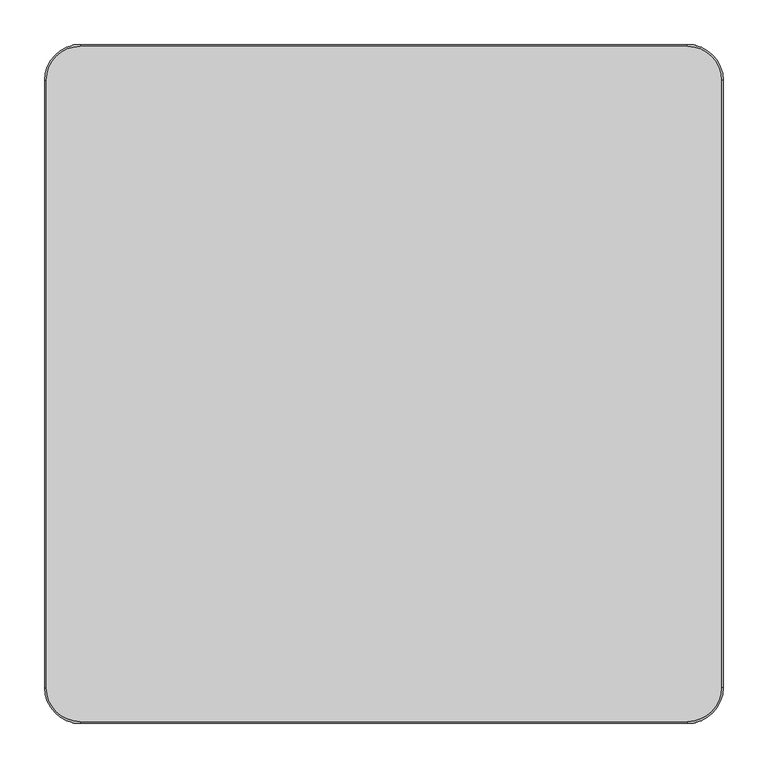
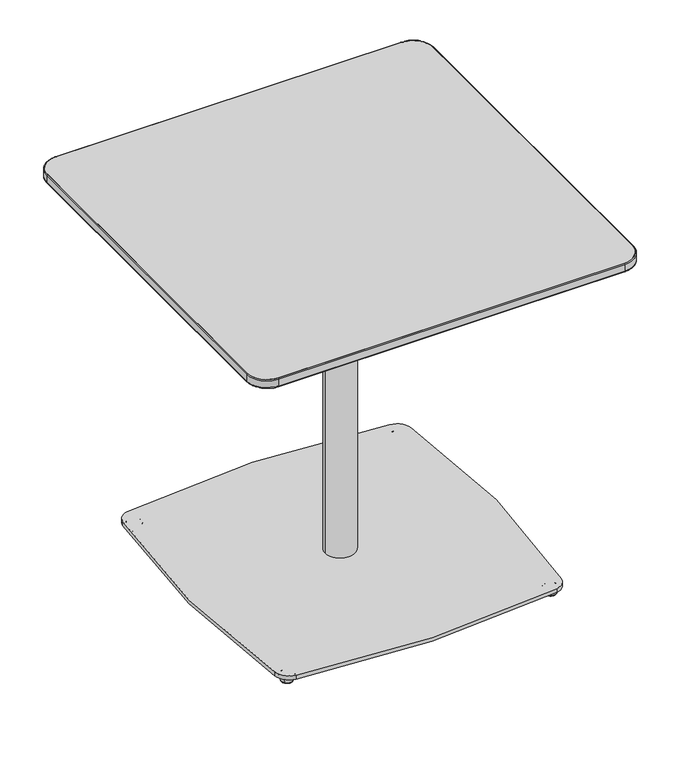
"""IFC4 building model written with IfcOpenShell, lengths in millimetres: furniture geometry, Coalesse_AM_Table_Conference_Montara650_WorkHeight_Square : 30D x 30W."""

from ifc_helpers import new_model, si_unit, point, frame, frame_2d, origin, place, context, project, spatial, polyline, circle_curve, ellipse_curve, trimmed, segment, composite_curve, outline, extrude, source, transform, mapped, element, save
from ifc_brep_helpers import plane_surface, cylinder_surface, revolved_surface, spline_surface, advanced_brep


def furniture_c2a7fe05(model_context):
    return source(origin(), model_context, "Body", "SolidModel", [
        advanced_brep(
        [(252.2843813, 244.9990703, 0.0), (266.9696661, 259.6843552, 0.0), (259.6270237, 252.3417127, 0.0), (251.7378791, 244.4525682, 0.5718943), (267.5161683, 260.2308573, 0.5718943), (249.43878, 242.1534691, 11.2068005), (269.8152674, 262.5299564, 11.2068005), (249.8538008, 242.5684899, 11.9999882), (269.4002466, 262.1149356, 11.9999882), (259.6270237, 252.3417127, 11.9999882)],
        [
            (0, 1, circle_curve(frame((259.6270237, 252.3417127, 0.0), z_axis=(0.0, 0.0, -1.0), x_axis=(0.7071067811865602, 0.7071067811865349, 0.0)), 10.3840645)),
            (1, 2),
            (2, 0),
            (1, 0, circle_curve(frame((259.6270237, 252.3417127, 0.0), z_axis=(0.0, 0.0, -1.0), x_axis=(0.7071067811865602, 0.7071067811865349, 0.0)), 10.3840645)),
            (3, 4, circle_curve(frame((259.6270237, 252.3417127, 0.5718943), z_axis=(0.0, 0.0, -1.0), x_axis=(0.7071067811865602, 0.7071067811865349, 0.0)), 11.1569353)),
            (4, 1, circle_curve(frame((266.9696661, 259.6843552, 0.8081846), z_axis=(-0.7071067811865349, 0.7071067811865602, 0.0), x_axis=(0.7071067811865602, 0.7071067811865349, 0.0)), 0.8081846)),
            (0, 3, circle_curve(frame((252.2843813, 244.9990703, 0.8081846), z_axis=(-0.7071067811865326, 0.7071067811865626, 0.0), x_axis=(-0.7071067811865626, -0.7071067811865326, 0.0)), 0.8081846)),
            (4, 3, circle_curve(frame((259.6270237, 252.3417127, 0.5718943), z_axis=(0.0, 0.0, -1.0), x_axis=(0.7071067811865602, 0.7071067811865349, 0.0)), 11.1569353)),
            (5, 6, circle_curve(frame((259.6270237, 252.3417127, 11.2068005), z_axis=(0.0, 0.0, -1.0), x_axis=(0.7071067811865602, 0.7071067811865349, 0.0)), 14.4083524)),
            (6, 4),
            (3, 5),
            (6, 5, circle_curve(frame((259.6270237, 252.3417127, 11.2068005), z_axis=(0.0, 0.0, -1.0), x_axis=(0.7071067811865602, 0.7071067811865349, 0.0)), 14.4083524)),
            (7, 8, circle_curve(frame((259.6270237, 252.3417127, 11.9999882), z_axis=(0.0, 0.0, -1.0), x_axis=(0.7071067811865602, 0.7071067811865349, 0.0)), 13.8214243)),
            (8, 6, circle_curve(frame((269.4002466, 262.1149356, 11.3862424), z_axis=(-0.7071067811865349, 0.7071067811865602, 0.0), x_axis=(0.7071067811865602, 0.7071067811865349, 0.0)), 0.6137458)),
            (5, 7, circle_curve(frame((249.8538008, 242.5684899, 11.3862424), z_axis=(-0.7071067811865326, 0.7071067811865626, 0.0), x_axis=(-0.7071067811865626, -0.7071067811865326, 0.0)), 0.6137458)),
            (8, 7, circle_curve(frame((259.6270237, 252.3417127, 11.9999882), z_axis=(0.0, 0.0, -1.0), x_axis=(0.7071067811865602, 0.7071067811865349, 0.0)), 13.8214243)),
            (9, 8),
            (7, 9),
        ],
        [
            plane_surface(frame((259.6270237, 252.3417127, 0.0), z_axis=(0.0, 0.0, -1.0000000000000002), x_axis=(0.7071067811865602, 0.7071067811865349, 0.0))),
            revolved_surface(trimmed(ellipse_curve(frame((266.9696661, 259.6843552, 0.8081846), z_axis=(0.7071067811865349, -0.7071067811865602, 0.0), x_axis=(0.7071067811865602, 0.7071067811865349, 0.0)), 0.8081846, 0.8081846), [point((266.9696661, 259.6843552, 0.0))], [point((267.5161683, 260.2308573, 0.5718943))], True, "CARTESIAN"), (259.6270237, 252.3417127, 12.2086845), (0.0, 0.0, 1.0)),
            revolved_surface(polyline([(267.5161683, 260.2308573, 0.5718943), (269.8152674, 262.5299564, 11.2068005)]), (259.6270237, 252.3417127, 12.2086845), (0.0, 0.0, 1.0)),
            revolved_surface(trimmed(ellipse_curve(frame((269.4002466, 262.1149356, 11.3862424), z_axis=(0.7071067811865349, -0.7071067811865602, 0.0), x_axis=(0.7071067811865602, 0.7071067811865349, 0.0)), 0.6137458, 0.6137458), [point((269.8152674, 262.5299564, 11.2068005))], [point((269.4002466, 262.1149356, 11.9999882))], True, "CARTESIAN"), (259.6270237, 252.3417127, 12.2086845), (0.0, 0.0, 1.0)),
            plane_surface(frame((259.6270237, 252.3417127, 11.9999882), z_axis=(0.0, 0.0, 1.0000000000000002), x_axis=(0.7071067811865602, 0.7071067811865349, 0.0))),
        ],
        [
            (0, [[1, 2, 3]]),
            (0, [[4, -3, -2]]),
            (1, [[5, 6, -1, 7]]),
            (1, [[8, -7, -4, -6]]),
            (2, [[9, 10, -5, 11]]),
            (2, [[12, -11, -8, -10]]),
            (3, [[13, 14, -9, 15]]),
            (3, [[16, -15, -12, -14]]),
            (4, [[17, -13, 18]]),
            (4, [[-18, -16, -17]]),
        ],
    ),
        advanced_brep(
        [(259.6270237, -268.2167127, 0.0), (266.9696661, -275.5593552, 0.0), (252.2843813, -260.8740703, 0.0), (267.5161683, -276.1058573, 0.5718943), (251.7378791, -260.3275682, 0.5718943), (269.8152674, -278.4049564, 11.2068005), (249.43878, -258.0284691, 11.2068005), (269.4002466, -277.9899356, 11.9999882), (249.8538008, -258.4434899, 11.9999882), (259.6270237, -268.2167127, 11.9999882)],
        [
            (0, 1),
            (1, 2, circle_curve(frame((259.6270237, -268.2167127, 0.0), z_axis=(0.0, 0.0, -1.0), x_axis=(0.7071067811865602, -0.7071067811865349, 0.0)), 10.3840645)),
            (2, 0),
            (2, 1, circle_curve(frame((259.6270237, -268.2167127, 0.0), z_axis=(0.0, 0.0, -1.0), x_axis=(0.7071067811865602, -0.7071067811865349, 0.0)), 10.3840645)),
            (1, 3, circle_curve(frame((266.9696661, -275.5593552, 0.8081846), z_axis=(-0.7071067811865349, -0.7071067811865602, 0.0), x_axis=(0.7071067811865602, -0.7071067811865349, 0.0)), 0.8081846)),
            (3, 4, circle_curve(frame((259.6270237, -268.2167127, 0.5718943), z_axis=(0.0, 0.0, -1.0), x_axis=(0.7071067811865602, -0.7071067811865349, 0.0)), 11.1569353)),
            (4, 2, circle_curve(frame((252.2843813, -260.8740703, 0.8081846), z_axis=(-0.7071067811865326, -0.7071067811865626, 0.0), x_axis=(-0.7071067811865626, 0.7071067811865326, 0.0)), 0.8081846)),
            (4, 3, circle_curve(frame((259.6270237, -268.2167127, 0.5718943), z_axis=(0.0, 0.0, -1.0), x_axis=(0.7071067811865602, -0.7071067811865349, 0.0)), 11.1569353)),
            (3, 5),
            (5, 6, circle_curve(frame((259.6270237, -268.2167127, 11.2068005), z_axis=(0.0, 0.0, -1.0), x_axis=(0.7071067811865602, -0.7071067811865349, 0.0)), 14.4083524)),
            (6, 4),
            (6, 5, circle_curve(frame((259.6270237, -268.2167127, 11.2068005), z_axis=(0.0, 0.0, -1.0), x_axis=(0.7071067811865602, -0.7071067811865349, 0.0)), 14.4083524)),
            (5, 7, circle_curve(frame((269.4002466, -277.9899356, 11.3862424), z_axis=(-0.7071067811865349, -0.7071067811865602, 0.0), x_axis=(0.7071067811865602, -0.7071067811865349, 0.0)), 0.6137458)),
            (7, 8, circle_curve(frame((259.6270237, -268.2167127, 11.9999882), z_axis=(0.0, 0.0, -1.0), x_axis=(0.7071067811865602, -0.7071067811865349, 0.0)), 13.8214243)),
            (8, 6, circle_curve(frame((249.8538008, -258.4434899, 11.3862424), z_axis=(-0.7071067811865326, -0.7071067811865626, 0.0), x_axis=(-0.7071067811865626, 0.7071067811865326, 0.0)), 0.6137458)),
            (8, 7, circle_curve(frame((259.6270237, -268.2167127, 11.9999882), z_axis=(0.0, 0.0, -1.0), x_axis=(0.7071067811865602, -0.7071067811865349, 0.0)), 13.8214243)),
            (7, 9),
            (9, 8),
        ],
        [
            plane_surface(frame((259.6270237, -268.2167127, 0.0), z_axis=(0.0, 0.0, -1.0000000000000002), x_axis=(0.7071067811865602, -0.7071067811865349, 0.0))),
            revolved_surface(trimmed(ellipse_curve(frame((266.9696661, -275.5593552, 0.8081846), z_axis=(0.7071067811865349, 0.7071067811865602, 0.0), x_axis=(0.7071067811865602, -0.7071067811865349, 0.0)), 0.8081846, 0.8081846), [point((267.5161683, -276.1058573, 0.5718943))], [point((266.9696661, -275.5593552, 0.0))], True, "CARTESIAN"), (259.6270237, -268.2167127, 12.2086845), (0.0, 0.0, -1.0)),
            revolved_surface(polyline([(269.8152674, -278.4049564, 11.2068005), (267.5161683, -276.1058573, 0.5718943)]), (259.6270237, -268.2167127, 12.2086845), (0.0, 0.0, -1.0)),
            revolved_surface(trimmed(ellipse_curve(frame((269.4002466, -277.9899356, 11.3862424), z_axis=(0.7071067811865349, 0.7071067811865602, 0.0), x_axis=(0.7071067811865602, -0.7071067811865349, 0.0)), 0.6137458, 0.6137458), [point((269.4002466, -277.9899356, 11.9999882))], [point((269.8152674, -278.4049564, 11.2068005))], True, "CARTESIAN"), (259.6270237, -268.2167127, 12.2086845), (0.0, 0.0, -1.0)),
            plane_surface(frame((259.6270237, -268.2167127, 11.9999882), z_axis=(0.0, 0.0, 1.0000000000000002), x_axis=(0.7071067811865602, -0.7071067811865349, 0.0))),
        ],
        [
            (0, [[1, 2, 3]]),
            (0, [[-3, 4, -1]]),
            (1, [[-2, 5, 6, 7]]),
            (1, [[-4, -7, 8, -5]]),
            (2, [[-6, 9, 10, 11]]),
            (2, [[-8, -11, 12, -9]]),
            (3, [[-10, 13, 14, 15]]),
            (3, [[-12, -15, 16, -13]]),
            (4, [[-14, 17, 18]]),
            (4, [[-16, -18, -17]]),
        ],
    ),
        extrude(outline(composite_curve([segment(trimmed(circle_curve(frame_2d((252.4620101, 244.7741595)), 31.75), [point((257.2212429, 276.1654354))], [point((283.8374336, 249.6368029))], False, "CARTESIAN"), True, "CONTINUOUS"), segment(trimmed(circle_curve(frame_2d((-1338.8141764, -1.8458925)), 1642.0236885), [point((283.8374336, 249.6368029))], [point((281.5966066, -267.3843791))], False, "CARTESIAN"), True, "CONTINUOUS"), segment(trimmed(circle_curve(frame_2d((256.5309305, -263.2768394)), 25.4), [point((281.5966066, -267.3843791))], [point((260.3854879, -288.3826631))], False, "CARTESIAN"), True, "CONTINUOUS"), segment(trimmed(circle_curve(frame_2d((1.8210899, 1395.720493)), 1703.8365498), [point((260.3854879, -288.3826631))], [point((-253.486505, -288.8794656))], False, "CARTESIAN"), True, "CONTINUOUS"), segment(trimmed(circle_curve(frame_2d((-248.7289969, -257.4879282)), 31.75), [point((-253.486505, -288.8794656))], [point((-280.1193859, -262.2530073))], False, "CARTESIAN"), True, "CONTINUOUS"), segment(trimmed(circle_curve(frame_2d((1447.4963883, 5.89e-05)), 1747.4074894), [point((-280.1193859, -262.2530073))], [point((-281.3896101, 253.7442979))], False, "CARTESIAN"), True, "CONTINUOUS"), segment(trimmed(circle_curve(frame_2d((-256.2588351, 250.0559175)), 25.4), [point((-281.3896101, 253.7442979))], [point((-260.1643924, 275.1538581))], False, "CARTESIAN"), True, "CONTINUOUS"), segment(trimmed(circle_curve(frame_2d((1.8210899, -1408.420493)), 1703.8365498), [point((-260.1643924, 275.1538581))], [point((257.2212429, 276.1654354))], False, "CARTESIAN"), True, "CONTINUOUS")], self_intersect=False)), frame((0.0, 0.0, 11.9999882), z_axis=(0.0, 0.0, 1.0), x_axis=(1.0, 0.0, 0.0)), (0.0, 0.0, 1.0), 8.0000083),
        advanced_brep(
        [(-259.6270237, 252.3417127, 0.0), (-266.9696661, 259.6843552, 0.0), (-252.2843813, 244.9990703, 0.0), (-267.5161683, 260.2308573, 0.5718943), (-251.7378791, 244.4525682, 0.5718943), (-269.8152674, 262.5299564, 11.2068005), (-249.43878, 242.1534691, 11.2068005), (-269.4002466, 262.1149356, 11.9999882), (-249.8538008, 242.5684899, 11.9999882), (-259.6270237, 252.3417127, 11.9999882)],
        [
            (0, 1),
            (1, 2, circle_curve(frame((-259.6270237, 252.3417127, 0.0), z_axis=(0.0, 0.0, -1.0), x_axis=(-0.7071067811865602, 0.7071067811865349, 0.0)), 10.3840645)),
            (2, 0),
            (2, 1, circle_curve(frame((-259.6270237, 252.3417127, 0.0), z_axis=(0.0, 0.0, -1.0), x_axis=(-0.7071067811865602, 0.7071067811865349, 0.0)), 10.3840645)),
            (1, 3, circle_curve(frame((-266.9696661, 259.6843552, 0.8081846), z_axis=(0.7071067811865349, 0.7071067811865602, 0.0), x_axis=(-0.7071067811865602, 0.7071067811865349, 0.0)), 0.8081846)),
            (3, 4, circle_curve(frame((-259.6270237, 252.3417127, 0.5718943), z_axis=(0.0, 0.0, -1.0), x_axis=(-0.7071067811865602, 0.7071067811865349, 0.0)), 11.1569353)),
            (4, 2, circle_curve(frame((-252.2843813, 244.9990703, 0.8081846), z_axis=(0.7071067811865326, 0.7071067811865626, 0.0), x_axis=(0.7071067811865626, -0.7071067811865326, 0.0)), 0.8081846)),
            (4, 3, circle_curve(frame((-259.6270237, 252.3417127, 0.5718943), z_axis=(0.0, 0.0, -1.0), x_axis=(-0.7071067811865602, 0.7071067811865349, 0.0)), 11.1569353)),
            (3, 5),
            (5, 6, circle_curve(frame((-259.6270237, 252.3417127, 11.2068005), z_axis=(0.0, 0.0, -1.0), x_axis=(-0.7071067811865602, 0.7071067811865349, 0.0)), 14.4083524)),
            (6, 4),
            (6, 5, circle_curve(frame((-259.6270237, 252.3417127, 11.2068005), z_axis=(0.0, 0.0, -1.0), x_axis=(-0.7071067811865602, 0.7071067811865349, 0.0)), 14.4083524)),
            (5, 7, circle_curve(frame((-269.4002466, 262.1149356, 11.3862424), z_axis=(0.7071067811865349, 0.7071067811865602, 0.0), x_axis=(-0.7071067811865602, 0.7071067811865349, 0.0)), 0.6137458)),
            (7, 8, circle_curve(frame((-259.6270237, 252.3417127, 11.9999882), z_axis=(0.0, 0.0, -1.0), x_axis=(-0.7071067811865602, 0.7071067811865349, 0.0)), 13.8214243)),
            (8, 6, circle_curve(frame((-249.8538008, 242.5684899, 11.3862424), z_axis=(0.7071067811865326, 0.7071067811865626, 0.0), x_axis=(0.7071067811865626, -0.7071067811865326, 0.0)), 0.6137458)),
            (8, 7, circle_curve(frame((-259.6270237, 252.3417127, 11.9999882), z_axis=(0.0, 0.0, -1.0), x_axis=(-0.7071067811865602, 0.7071067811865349, 0.0)), 13.8214243)),
            (7, 9),
            (9, 8),
        ],
        [
            plane_surface(frame((-259.6270237, 252.3417127, 0.0), z_axis=(0.0, 0.0, -1.0000000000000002), x_axis=(-0.7071067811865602, 0.7071067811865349, 0.0))),
            revolved_surface(trimmed(ellipse_curve(frame((-266.9696661, 259.6843552, 0.8081846), z_axis=(-0.7071067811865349, -0.7071067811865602, 0.0), x_axis=(-0.7071067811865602, 0.7071067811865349, 0.0)), 0.8081846, 0.8081846), [point((-267.5161683, 260.2308573, 0.5718943))], [point((-266.9696661, 259.6843552, 0.0))], True, "CARTESIAN"), (-259.6270237, 252.3417127, 12.2086845), (0.0, 0.0, -1.0)),
            revolved_surface(polyline([(-269.8152674, 262.5299564, 11.2068005), (-267.5161683, 260.2308573, 0.5718943)]), (-259.6270237, 252.3417127, 12.2086845), (0.0, 0.0, -1.0)),
            revolved_surface(trimmed(ellipse_curve(frame((-269.4002466, 262.1149356, 11.3862424), z_axis=(-0.7071067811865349, -0.7071067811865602, 0.0), x_axis=(-0.7071067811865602, 0.7071067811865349, 0.0)), 0.6137458, 0.6137458), [point((-269.4002466, 262.1149356, 11.9999882))], [point((-269.8152674, 262.5299564, 11.2068005))], True, "CARTESIAN"), (-259.6270237, 252.3417127, 12.2086845), (0.0, 0.0, -1.0)),
            plane_surface(frame((-259.6270237, 252.3417127, 11.9999882), z_axis=(0.0, 0.0, 1.0000000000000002), x_axis=(-0.7071067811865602, 0.7071067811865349, 0.0))),
        ],
        [
            (0, [[1, 2, 3]]),
            (0, [[-3, 4, -1]]),
            (1, [[-2, 5, 6, 7]]),
            (1, [[-4, -7, 8, -5]]),
            (2, [[-6, 9, 10, 11]]),
            (2, [[-8, -11, 12, -9]]),
            (3, [[-10, 13, 14, 15]]),
            (3, [[-12, -15, 16, -13]]),
            (4, [[-14, 17, 18]]),
            (4, [[-16, -18, -17]]),
        ],
    ),
        advanced_brep(
        [(-252.2843813, -260.8740703, 0.0), (-266.9696661, -275.5593552, 0.0), (-259.6270237, -268.2167127, 0.0), (-251.7378791, -260.3275682, 0.5718943), (-267.5161683, -276.1058573, 0.5718943), (-249.43878, -258.0284691, 11.2068005), (-269.8152674, -278.4049564, 11.2068005), (-249.8538008, -258.4434899, 11.9999882), (-269.4002466, -277.9899356, 11.9999882), (-259.6270237, -268.2167127, 11.9999882)],
        [
            (0, 1, circle_curve(frame((-259.6270237, -268.2167127, 0.0), z_axis=(0.0, 0.0, -1.0), x_axis=(-0.7071067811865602, -0.7071067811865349, 0.0)), 10.3840645)),
            (1, 2),
            (2, 0),
            (1, 0, circle_curve(frame((-259.6270237, -268.2167127, 0.0), z_axis=(0.0, 0.0, -1.0), x_axis=(-0.7071067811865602, -0.7071067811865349, 0.0)), 10.3840645)),
            (3, 4, circle_curve(frame((-259.6270237, -268.2167127, 0.5718943), z_axis=(0.0, 0.0, -1.0), x_axis=(-0.7071067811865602, -0.7071067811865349, 0.0)), 11.1569353)),
            (4, 1, circle_curve(frame((-266.9696661, -275.5593552, 0.8081846), z_axis=(0.7071067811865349, -0.7071067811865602, 0.0), x_axis=(-0.7071067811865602, -0.7071067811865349, 0.0)), 0.8081846)),
            (0, 3, circle_curve(frame((-252.2843813, -260.8740703, 0.8081846), z_axis=(0.7071067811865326, -0.7071067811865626, 0.0), x_axis=(0.7071067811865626, 0.7071067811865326, 0.0)), 0.8081846)),
            (4, 3, circle_curve(frame((-259.6270237, -268.2167127, 0.5718943), z_axis=(0.0, 0.0, -1.0), x_axis=(-0.7071067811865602, -0.7071067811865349, 0.0)), 11.1569353)),
            (5, 6, circle_curve(frame((-259.6270237, -268.2167127, 11.2068005), z_axis=(0.0, 0.0, -1.0), x_axis=(-0.7071067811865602, -0.7071067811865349, 0.0)), 14.4083524)),
            (6, 4),
            (3, 5),
            (6, 5, circle_curve(frame((-259.6270237, -268.2167127, 11.2068005), z_axis=(0.0, 0.0, -1.0), x_axis=(-0.7071067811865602, -0.7071067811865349, 0.0)), 14.4083524)),
            (7, 8, circle_curve(frame((-259.6270237, -268.2167127, 11.9999882), z_axis=(0.0, 0.0, -1.0), x_axis=(-0.7071067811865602, -0.7071067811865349, 0.0)), 13.8214243)),
            (8, 6, circle_curve(frame((-269.4002466, -277.9899356, 11.3862424), z_axis=(0.7071067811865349, -0.7071067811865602, 0.0), x_axis=(-0.7071067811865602, -0.7071067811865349, 0.0)), 0.6137458)),
            (5, 7, circle_curve(frame((-249.8538008, -258.4434899, 11.3862424), z_axis=(0.7071067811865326, -0.7071067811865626, 0.0), x_axis=(0.7071067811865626, 0.7071067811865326, 0.0)), 0.6137458)),
            (8, 7, circle_curve(frame((-259.6270237, -268.2167127, 11.9999882), z_axis=(0.0, 0.0, -1.0), x_axis=(-0.7071067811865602, -0.7071067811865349, 0.0)), 13.8214243)),
            (9, 8),
            (7, 9),
        ],
        [
            plane_surface(frame((-259.6270237, -268.2167127, 0.0), z_axis=(0.0, 0.0, -1.0000000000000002), x_axis=(-0.7071067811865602, -0.7071067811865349, 0.0))),
            revolved_surface(trimmed(ellipse_curve(frame((-266.9696661, -275.5593552, 0.8081846), z_axis=(-0.7071067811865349, 0.7071067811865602, 0.0), x_axis=(-0.7071067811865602, -0.7071067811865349, 0.0)), 0.8081846, 0.8081846), [point((-266.9696661, -275.5593552, 0.0))], [point((-267.5161683, -276.1058573, 0.5718943))], True, "CARTESIAN"), (-259.6270237, -268.2167127, 12.2086845), (0.0, 0.0, 1.0)),
            revolved_surface(polyline([(-267.5161683, -276.1058573, 0.5718943), (-269.8152674, -278.4049564, 11.2068005)]), (-259.6270237, -268.2167127, 12.2086845), (0.0, 0.0, 1.0)),
            revolved_surface(trimmed(ellipse_curve(frame((-269.4002466, -277.9899356, 11.3862424), z_axis=(-0.7071067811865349, 0.7071067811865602, 0.0), x_axis=(-0.7071067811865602, -0.7071067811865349, 0.0)), 0.6137458, 0.6137458), [point((-269.8152674, -278.4049564, 11.2068005))], [point((-269.4002466, -277.9899356, 11.9999882))], True, "CARTESIAN"), (-259.6270237, -268.2167127, 12.2086845), (0.0, 0.0, 1.0)),
            plane_surface(frame((-259.6270237, -268.2167127, 11.9999882), z_axis=(0.0, 0.0, 1.0000000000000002), x_axis=(-0.7071067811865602, -0.7071067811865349, 0.0))),
        ],
        [
            (0, [[1, 2, 3]]),
            (0, [[4, -3, -2]]),
            (1, [[5, 6, -1, 7]]),
            (1, [[8, -7, -4, -6]]),
            (2, [[9, 10, -5, 11]]),
            (2, [[12, -11, -8, -10]]),
            (3, [[13, 14, -9, 15]]),
            (3, [[16, -15, -12, -14]]),
            (4, [[17, -13, 18]]),
            (4, [[-18, -16, -17]]),
        ],
    ),
        advanced_brep(
        [(-259.4526224, 252.1653521, 0.0), (-266.7952648, 259.5079945, 0.0), (-252.1099799, 244.8227097, 0.0), (-267.3417669, 260.0544967, 0.5718943), (-251.5634778, 244.2762075, 0.5718943), (-269.640866, 262.3535958, 11.2068005), (-249.2643787, 241.9771084, 11.2068005), (-269.2258452, 261.938575, 11.9999882), (-249.6793995, 242.3921292, 11.9999882), (-259.4526224, 252.1653521, 11.9999882)],
        [
            (0, 1),
            (1, 2, circle_curve(frame((-259.4526224, 252.1653521, 0.0), z_axis=(0.0, 0.0, -1.0), x_axis=(-0.7071067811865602, 0.7071067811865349, 0.0)), 10.3840645)),
            (2, 0),
            (2, 1, circle_curve(frame((-259.4526224, 252.1653521, 0.0), z_axis=(0.0, 0.0, -1.0), x_axis=(-0.7071067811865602, 0.7071067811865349, 0.0)), 10.3840645)),
            (1, 3, circle_curve(frame((-266.7952648, 259.5079945, 0.8081846), z_axis=(0.7071067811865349, 0.7071067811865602, 0.0), x_axis=(-0.7071067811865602, 0.7071067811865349, 0.0)), 0.8081846)),
            (3, 4, circle_curve(frame((-259.4526224, 252.1653521, 0.5718943), z_axis=(0.0, 0.0, -1.0), x_axis=(-0.7071067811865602, 0.7071067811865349, 0.0)), 11.1569353)),
            (4, 2, circle_curve(frame((-252.1099799, 244.8227097, 0.8081846), z_axis=(0.7071067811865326, 0.7071067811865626, 0.0), x_axis=(0.7071067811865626, -0.7071067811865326, 0.0)), 0.8081846)),
            (4, 3, circle_curve(frame((-259.4526224, 252.1653521, 0.5718943), z_axis=(0.0, 0.0, -1.0), x_axis=(-0.7071067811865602, 0.7071067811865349, 0.0)), 11.1569353)),
            (3, 5),
            (5, 6, circle_curve(frame((-259.4526224, 252.1653521, 11.2068005), z_axis=(0.0, 0.0, -1.0), x_axis=(-0.7071067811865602, 0.7071067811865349, 0.0)), 14.4083524)),
            (6, 4),
            (6, 5, circle_curve(frame((-259.4526224, 252.1653521, 11.2068005), z_axis=(0.0, 0.0, -1.0), x_axis=(-0.7071067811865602, 0.7071067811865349, 0.0)), 14.4083524)),
            (5, 7, circle_curve(frame((-269.2258452, 261.938575, 11.3862424), z_axis=(0.7071067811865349, 0.7071067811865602, 0.0), x_axis=(-0.7071067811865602, 0.7071067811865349, 0.0)), 0.6137458)),
            (7, 8, circle_curve(frame((-259.4526224, 252.1653521, 11.9999882), z_axis=(0.0, 0.0, -1.0), x_axis=(-0.7071067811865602, 0.7071067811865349, 0.0)), 13.8214243)),
            (8, 6, circle_curve(frame((-249.6793995, 242.3921292, 11.3862424), z_axis=(0.7071067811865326, 0.7071067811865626, 0.0), x_axis=(0.7071067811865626, -0.7071067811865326, 0.0)), 0.6137458)),
            (8, 7, circle_curve(frame((-259.4526224, 252.1653521, 11.9999882), z_axis=(0.0, 0.0, -1.0), x_axis=(-0.7071067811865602, 0.7071067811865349, 0.0)), 13.8214243)),
            (7, 9),
            (9, 8),
        ],
        [
            plane_surface(frame((-259.4526224, 252.1653521, 0.0), z_axis=(0.0, 0.0, -1.0000000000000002), x_axis=(-0.7071067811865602, 0.7071067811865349, 0.0))),
            revolved_surface(trimmed(ellipse_curve(frame((-266.7952648, 259.5079945, 0.8081846), z_axis=(-0.7071067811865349, -0.7071067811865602, 0.0), x_axis=(-0.7071067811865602, 0.7071067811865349, 0.0)), 0.8081846, 0.8081846), [point((-267.3417669, 260.0544967, 0.5718943))], [point((-266.7952648, 259.5079945, 0.0))], True, "CARTESIAN"), (-259.4526224, 252.1653521, 12.2086845), (0.0, 0.0, -1.0)),
            revolved_surface(polyline([(-269.640866, 262.3535958, 11.2068005), (-267.3417669, 260.0544967, 0.5718943)]), (-259.4526224, 252.1653521, 12.2086845), (0.0, 0.0, -1.0)),
            revolved_surface(trimmed(ellipse_curve(frame((-269.2258452, 261.938575, 11.3862424), z_axis=(-0.7071067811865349, -0.7071067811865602, 0.0), x_axis=(-0.7071067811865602, 0.7071067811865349, 0.0)), 0.6137458, 0.6137458), [point((-269.2258452, 261.938575, 11.9999882))], [point((-269.640866, 262.3535958, 11.2068005))], True, "CARTESIAN"), (-259.4526224, 252.1653521, 12.2086845), (0.0, 0.0, -1.0)),
            plane_surface(frame((-259.4526224, 252.1653521, 11.9999882), z_axis=(0.0, 0.0, 1.0000000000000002), x_axis=(-0.7071067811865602, 0.7071067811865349, 0.0))),
        ],
        [
            (0, [[1, 2, 3]]),
            (0, [[-3, 4, -1]]),
            (1, [[-2, 5, 6, 7]]),
            (1, [[-4, -7, 8, -5]]),
            (2, [[-6, 9, 10, 11]]),
            (2, [[-8, -11, 12, -9]]),
            (3, [[-10, 13, 14, 15]]),
            (3, [[-12, -15, 16, -13]]),
            (4, [[-14, 17, 18]]),
            (4, [[-16, -18, -17]]),
        ],
    ),
        advanced_brep(
        [(316.0626362, 316.0635082, 693.930027), (316.0626362, -316.0635082, 693.930027), (-316.0626362, -316.0635082, 693.930027), (-316.0626362, 316.0635082, 693.930027), (340.788625, 378.968, 706.195891), (-340.788625, 378.968, 706.195891), (-378.888625, 340.868, 706.195891), (-378.888625, -340.868, 706.195891), (-340.788625, -378.968, 706.195891), (340.788625, -378.968, 706.195891), (378.888625, -340.868, 706.195891), (378.888625, 340.868, 706.195891)],
        [
            (0, 1),
            (1, 2),
            (2, 3),
            (3, 0),
            (4, 5),
            (5, 6, circle_curve(frame((-340.788625, 340.868, 706.195891), z_axis=(0.0, 0.0, 1.0), x_axis=(1.0, 0.0, 0.0)), 38.1)),
            (6, 7),
            (7, 8, circle_curve(frame((-340.788625, -340.868, 706.195891), z_axis=(0.0, 0.0, 1.0), x_axis=(1.0, 0.0, 0.0)), 38.1)),
            (8, 9),
            (9, 10, circle_curve(frame((340.788625, -340.868, 706.195891), z_axis=(0.0, 0.0, 1.0), x_axis=(1.0, 0.0, 0.0)), 38.1)),
            (10, 11),
            (11, 4, circle_curve(frame((340.788625, 340.868, 706.195891), z_axis=(0.0, 0.0, 1.0), x_axis=(1.0, 0.0, 0.0)), 38.1)),
            (11, 0),
            (0, 4),
            (10, 1),
            (9, 1),
            (8, 2),
            (7, 2),
            (6, 3),
            (5, 3),
        ],
        [
            plane_surface(frame((0.0, 0.0, 693.930027), z_axis=(0.0, 0.0, -1.0), x_axis=(-1.0, 0.0, 0.0))),
            plane_surface(frame((0.0, 0.0, 706.195891), z_axis=(0.0, 0.0, 1.0), x_axis=(-1.0, 0.0, 0.0))),
            spline_surface(2, 1, [[(340.788625, 378.968, 706.195891), (316.0626362, 316.0635082, 693.930027)], [(378.88862500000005, 378.9680000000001, 706.195891), (316.0626362, 316.0635082, 693.930027)], [(378.888625, 340.868, 706.195891), (316.0626362, 316.0635082, 693.930027)]], [3, 3], [2, 2], [0.0, 1.0], [0.0, 1.0], weights=[[1.0, 1.0], [0.707106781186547, 0.707106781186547], [1.0, 1.0]]),
            plane_surface(frame((378.888625, 0.0, 706.195891), z_axis=(0.19161772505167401, 0.0, -0.9814696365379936), x_axis=(0.0, -1.0, 0.0))),
            spline_surface(2, 1, [[(378.888625, -340.868, 706.195891), (316.0626362, -316.0635082, 693.930027)], [(378.88862499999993, -378.96799999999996, 706.195891), (316.0626362, -316.0635082, 693.930027)], [(340.788625, -378.968, 706.195891), (316.0626362, -316.0635082, 693.930027)]], [3, 3], [2, 2], [0.0, 1.0], [0.0, 1.0], weights=[[1.0, 1.0], [0.7071067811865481, 0.7071067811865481], [1.0, 1.0]]),
            plane_surface(frame((0.0, -378.968, 706.195891), z_axis=(0.0, -0.19138735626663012, -0.9815145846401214), x_axis=(-1.0, 0.0, 0.0))),
            spline_surface(2, 1, [[(-340.788625, -378.968, 706.195891), (-316.0626362, -316.0635082, 693.930027)], [(-378.88862500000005, -378.9680000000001, 706.195891), (-316.0626362, -316.0635082, 693.930027)], [(-378.888625, -340.868, 706.195891), (-316.0626362, -316.0635082, 693.930027)]], [3, 3], [2, 2], [0.0, 1.0], [0.0, 1.0], weights=[[1.0, 1.0], [0.707106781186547, 0.707106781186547], [1.0, 1.0]]),
            plane_surface(frame((-378.888625, 0.0, 706.195891), z_axis=(-0.19161772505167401, 0.0, -0.9814696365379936), x_axis=(0.0, 1.0, 0.0))),
            spline_surface(2, 1, [[(-378.888625, 340.868, 706.195891), (-316.0626362, 316.0635082, 693.930027)], [(-378.88862499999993, 378.96799999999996, 706.195891), (-316.0626362, 316.0635082, 693.930027)], [(-340.788625, 378.968, 706.195891), (-316.0626362, 316.0635082, 693.930027)]], [3, 3], [2, 2], [0.0, 1.0], [0.0, 1.0], weights=[[1.0, 1.0], [0.7071067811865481, 0.7071067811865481], [1.0, 1.0]]),
            plane_surface(frame((0.0, 378.968, 706.195891), z_axis=(0.0, 0.19138735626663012, -0.9815145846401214), x_axis=(1.0, 0.0, 0.0))),
        ],
        [
            (0, [[1, 2, 3, 4]]),
            (1, [[5, 6, 7, 8, 9, 10, 11, 12]]),
            (2, [[-12, 13, 14]]),
            (3, [[-11, 15, -1, -13]]),
            (4, [[-10, 16, -15]]),
            (5, [[-9, 17, -2, -16]]),
            (6, [[-8, 18, -17]]),
            (7, [[-7, 19, -3, -18]]),
            (8, [[-6, 20, -19]]),
            (9, [[-5, -14, -4, -20]]),
        ],
    ),
        extrude(outline(composite_curve([segment(trimmed(circle_curve(frame_2d((340.788625, 340.868)), 38.1), [point((340.788625, 378.968))], [point((378.888625, 340.868))], False, "CARTESIAN"), True, "CONTINUOUS"), segment(polyline([(378.888625, 340.868), (378.888625, -340.868)]), True, "CONTINUOUS"), segment(trimmed(circle_curve(frame_2d((340.788625, -340.868)), 38.1), [point((378.888625, -340.868))], [point((340.788625, -378.968))], False, "CARTESIAN"), True, "CONTINUOUS"), segment(polyline([(340.788625, -378.968), (-340.788625, -378.968)]), True, "CONTINUOUS"), segment(trimmed(circle_curve(frame_2d((-340.788625, -340.868)), 38.1), [point((-340.788625, -378.968))], [point((-378.888625, -340.868))], False, "CARTESIAN"), True, "CONTINUOUS"), segment(polyline([(-378.888625, -340.868), (-378.888625, 340.868)]), True, "CONTINUOUS"), segment(trimmed(circle_curve(frame_2d((-340.788625, 340.868)), 38.1), [point((-378.888625, 340.868))], [point((-340.788625, 378.968))], False, "CARTESIAN"), True, "CONTINUOUS"), segment(polyline([(-340.788625, 378.968), (340.788625, 378.968)]), True, "CONTINUOUS")], self_intersect=False)), frame((0.0, 0.0, 706.195891), z_axis=(0.0, 0.0, 1.0), x_axis=(1.0, 0.0, 0.0)), (0.0, 0.0, 1.0), 17.704109),
        advanced_brep(
        [(-380.9644915, 340.868, 708.1278467), (-340.788625, 381.0438665, 708.1278467), (-340.788625, 378.968, 706.195891), (-378.888625, 340.868, 706.195891), (-380.9644915, 340.868, 721.8999283), (-340.788625, 381.0438665, 721.8999283), (-378.888625, 340.868, 723.9), (-340.788625, 378.968, 723.9), (-378.888625, -340.868, 706.195891), (-380.9644915, -340.868, 708.1278467), (-380.9644915, -340.868, 721.8999283), (-378.888625, -340.868, 723.9), (-340.788625, -381.0438665, 708.1278467), (-340.788625, -378.968, 706.195891), (-340.788625, -381.0438665, 721.8999283), (-340.788625, -378.968, 723.9), (340.788625, -378.968, 706.195891), (340.788625, -381.0438665, 708.1278467), (340.788625, -381.0438665, 721.8999283), (340.788625, -378.968, 723.9), (380.9644915, -340.868, 708.1278467), (378.888625, -340.868, 706.195891), (380.9644915, -340.868, 721.8999283), (378.888625, -340.868, 723.9), (378.888625, 340.868, 706.195891), (380.9644915, 340.868, 708.1278467), (380.9644915, 340.868, 721.8999283), (378.888625, 340.868, 723.9), (340.788625, 381.0438665, 708.1278467), (340.788625, 378.968, 706.195891), (340.788625, 381.0438665, 721.8999283), (340.788625, 378.968, 723.9)],
        [
            (0, 1, circle_curve(frame((-340.788625, 340.868, 708.1278467), z_axis=(0.0, 0.0, -1.0), x_axis=(0.0, 1.0, 0.0)), 40.1758665)),
            (1, 2, circle_curve(frame((-340.788625, 379.1069224, 708.1278467), z_axis=(-1.0, 0.0, 0.0), x_axis=(0.0, -1.0, 0.0)), 1.9369441)),
            (2, 3, circle_curve(frame((-340.788625, 340.868, 706.195891), z_axis=(0.0, 0.0, 1.0), x_axis=(0.0, 1.0, 0.0)), 38.1)),
            (3, 0, circle_curve(frame((-379.0275474, 340.868, 708.1278467), z_axis=(0.0, 1.0, 0.0), x_axis=(1.0, 0.0, 0.0)), 1.9369441)),
            (4, 5, circle_curve(frame((-340.788625, 340.868, 721.8999283), z_axis=(0.0, 0.0, -1.0), x_axis=(0.0, 1.0, 0.0)), 40.1758665)),
            (5, 1),
            (0, 4),
            (6, 7, circle_curve(frame((-340.788625, 340.868, 723.9), z_axis=(0.0, 0.0, -1.0), x_axis=(0.0, 1.0, 0.0)), 38.1)),
            (7, 5, circle_curve(frame((-340.788625, 379.0424111, 721.8999283), z_axis=(-1.0, 0.0, 0.0), x_axis=(0.0, -1.0, 0.0)), 2.0014554)),
            (4, 6, circle_curve(frame((-378.9630361, 340.868, 721.8999283), z_axis=(0.0, 1.0, 0.0), x_axis=(1.0, 0.0, 0.0)), 2.0014554)),
            (2, 7),
            (6, 3),
            (3, 8),
            (8, 9, circle_curve(frame((-379.0275474, -340.868, 708.1278467), z_axis=(0.0, 1.0, 0.0), x_axis=(1.0, 0.0, 0.0)), 1.9369441)),
            (9, 0),
            (9, 10),
            (10, 4),
            (10, 11, circle_curve(frame((-378.9630361, -340.868, 721.8999283), z_axis=(0.0, 1.0, 0.0), x_axis=(1.0, 0.0, 0.0)), 2.0014554)),
            (11, 6),
            (11, 8),
            (12, 9, circle_curve(frame((-340.788625, -340.868, 708.1278467), z_axis=(0.0, 0.0, -1.0), x_axis=(-1.0, 0.0, 0.0)), 40.1758665)),
            (8, 13, circle_curve(frame((-340.788625, -340.868, 706.195891), z_axis=(0.0, 0.0, 1.0), x_axis=(-1.0, 0.0, 0.0)), 38.1)),
            (13, 12, circle_curve(frame((-340.788625, -379.1069224, 708.1278467), z_axis=(-1.0, 0.0, 0.0), x_axis=(0.0, 1.0, 0.0)), 1.9369441)),
            (14, 10, circle_curve(frame((-340.788625, -340.868, 721.8999283), z_axis=(0.0, 0.0, -1.0), x_axis=(-1.0, 0.0, 0.0)), 40.1758665)),
            (12, 14),
            (15, 11, circle_curve(frame((-340.788625, -340.868, 723.9), z_axis=(0.0, 0.0, -1.0), x_axis=(-1.0, 0.0, 0.0)), 38.1)),
            (14, 15, circle_curve(frame((-340.788625, -379.0424111, 721.8999283), z_axis=(-1.0, 0.0, 0.0), x_axis=(0.0, 1.0, 0.0)), 2.0014554)),
            (15, 13),
            (13, 16),
            (16, 17, circle_curve(frame((340.788625, -379.1069224, 708.1278467), z_axis=(-1.0, 0.0, 0.0), x_axis=(0.0, 1.0, 0.0)), 1.9369441)),
            (17, 12),
            (17, 18),
            (18, 14),
            (18, 19, circle_curve(frame((340.788625, -379.0424111, 721.8999283), z_axis=(-1.0, 0.0, 0.0), x_axis=(0.0, 1.0, 0.0)), 2.0014554)),
            (19, 15),
            (19, 16),
            (20, 17, circle_curve(frame((340.788625, -340.868, 708.1278467), z_axis=(0.0, 0.0, -1.0), x_axis=(0.0, -1.0, 0.0)), 40.1758665)),
            (16, 21, circle_curve(frame((340.788625, -340.868, 706.195891), z_axis=(0.0, 0.0, 1.0), x_axis=(0.0, -1.0, 0.0)), 38.1)),
            (21, 20, circle_curve(frame((379.0275474, -340.868, 708.1278467), z_axis=(0.0, -1.0, 0.0), x_axis=(-1.0, 0.0, 0.0)), 1.9369441)),
            (22, 18, circle_curve(frame((340.788625, -340.868, 721.8999283), z_axis=(0.0, 0.0, -1.0), x_axis=(0.0, -1.0, 0.0)), 40.1758665)),
            (20, 22),
            (23, 19, circle_curve(frame((340.788625, -340.868, 723.9), z_axis=(0.0, 0.0, -1.0), x_axis=(0.0, -1.0, 0.0)), 38.1)),
            (22, 23, circle_curve(frame((378.9630361, -340.868, 721.8999283), z_axis=(0.0, -1.0, 0.0), x_axis=(-1.0, 0.0, 0.0)), 2.0014554)),
            (23, 21),
            (21, 24),
            (24, 25, circle_curve(frame((379.0275474, 340.868, 708.1278467), z_axis=(0.0, -1.0, 0.0), x_axis=(-1.0, 0.0, 0.0)), 1.9369441)),
            (25, 20),
            (25, 26),
            (26, 22),
            (26, 27, circle_curve(frame((378.9630361, 340.868, 721.8999283), z_axis=(0.0, -1.0, 0.0), x_axis=(-1.0, 0.0, 0.0)), 2.0014554)),
            (27, 23),
            (27, 24),
            (28, 25, circle_curve(frame((340.788625, 340.868, 708.1278467), z_axis=(0.0, 0.0, -1.0), x_axis=(1.0, 0.0, 0.0)), 40.1758665)),
            (24, 29, circle_curve(frame((340.788625, 340.868, 706.195891), z_axis=(0.0, 0.0, 1.0), x_axis=(1.0, 0.0, 0.0)), 38.1)),
            (29, 28, circle_curve(frame((340.788625, 379.1069224, 708.1278467), z_axis=(1.0, 0.0, 0.0), x_axis=(0.0, -1.0, 0.0)), 1.9369441)),
            (30, 26, circle_curve(frame((340.788625, 340.868, 721.8999283), z_axis=(0.0, 0.0, -1.0), x_axis=(1.0, 0.0, 0.0)), 40.1758665)),
            (28, 30),
            (31, 27, circle_curve(frame((340.788625, 340.868, 723.9), z_axis=(0.0, 0.0, -1.0), x_axis=(1.0, 0.0, 0.0)), 38.1)),
            (30, 31, circle_curve(frame((340.788625, 379.0424111, 721.8999283), z_axis=(1.0, 0.0, 0.0), x_axis=(0.0, -1.0, 0.0)), 2.0014554)),
            (31, 29),
            (29, 2),
            (1, 28),
            (5, 30),
            (7, 31),
        ],
        [
            revolved_surface(trimmed(ellipse_curve(frame((-340.788625, 379.1069224, 708.1278467), z_axis=(1.0, 0.0, 0.0), x_axis=(0.0, -1.0, 0.0)), 1.9369441, 1.9369441), [point((-340.788625, 378.968, 706.195891))], [point((-340.788625, 381.0438665, 708.1278467))], True, "CARTESIAN"), (-340.788625, 340.868, 0.0), (0.0, 0.0, 1.0)),
            cylinder_surface(frame((-340.788625, 340.868, 0.0), z_axis=(0.0, 0.0, 1.0), x_axis=(0.0, 1.0, 0.0)), 40.1758665),
            revolved_surface(trimmed(ellipse_curve(frame((-340.788625, 379.0424111, 721.8999283), z_axis=(1.0, 0.0, 0.0), x_axis=(0.0, -1.0, 0.0)), 2.0014554, 2.0014554), [point((-340.788625, 381.0438665, 721.8999283))], [point((-340.788625, 378.968, 723.9))], True, "CARTESIAN"), (-340.788625, 340.868, 0.0), (0.0, 0.0, 1.0)),
            revolved_surface(polyline([(-340.788625, 378.968, 723.9), (-340.788625, 378.968, 706.195891)]), (-340.788625, 340.868, 0.0), (0.0, 0.0, 1.0)),
            cylinder_surface(frame((-379.0275474, 340.868, 708.1278467), z_axis=(0.0, 1.0, 0.0), x_axis=(1.0, 0.0, 0.0)), 1.9369441),
            plane_surface(frame((-380.9644915, 340.868, 708.1278467), z_axis=(-1.0, 0.0, 0.0), x_axis=(0.0, -1.0, 0.0))),
            cylinder_surface(frame((-378.9630361, 340.868, 721.8999283), z_axis=(0.0, 1.0, 0.0), x_axis=(1.0, 0.0, 0.0)), 2.0014554),
            plane_surface(frame((-378.888625, 340.868, 723.9), z_axis=(1.0, 0.0, 0.0), x_axis=(0.0, -1.0, 0.0))),
            revolved_surface(trimmed(ellipse_curve(frame((-379.0275474, -340.868, 708.1278467), z_axis=(0.0, 1.0, 0.0), x_axis=(1.0, 0.0, 0.0)), 1.9369441, 1.9369441), [point((-378.888625, -340.868, 706.195891))], [point((-380.9644915, -340.868, 708.1278467))], True, "CARTESIAN"), (-340.788625, -340.868, 0.0), (0.0, 0.0, 1.0)),
            cylinder_surface(frame((-340.788625, -340.868, 0.0), z_axis=(0.0, 0.0, 1.0), x_axis=(-1.0, 0.0, 0.0)), 40.1758665),
            revolved_surface(trimmed(ellipse_curve(frame((-378.9630361, -340.868, 721.8999283), z_axis=(0.0, 1.0, 0.0), x_axis=(1.0, 0.0, 0.0)), 2.0014554, 2.0014554), [point((-380.9644915, -340.868, 721.8999283))], [point((-378.888625, -340.868, 723.9))], True, "CARTESIAN"), (-340.788625, -340.868, 0.0), (0.0, 0.0, 1.0)),
            revolved_surface(polyline([(-378.88862500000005, -340.868, 723.9), (-378.88862500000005, -340.868, 706.195891)]), (-340.788625, -340.868, 0.0), (0.0, 0.0, 1.0)),
            cylinder_surface(frame((-340.788625, -379.1069224, 708.1278467), z_axis=(-1.0, 0.0, 0.0), x_axis=(0.0, 1.0, 0.0)), 1.9369441),
            plane_surface(frame((-340.788625, -381.0438665, 708.1278467), z_axis=(0.0, -1.0, 0.0), x_axis=(1.0, 0.0, 0.0))),
            cylinder_surface(frame((-340.788625, -379.0424111, 721.8999283), z_axis=(-1.0, 0.0, 0.0), x_axis=(0.0, 1.0, 0.0)), 2.0014554),
            plane_surface(frame((-340.788625, -378.968, 723.9), z_axis=(0.0, 1.0, 0.0), x_axis=(1.0, 0.0, 0.0))),
            revolved_surface(trimmed(ellipse_curve(frame((340.788625, -379.1069224, 708.1278467), z_axis=(-1.0, 0.0, 0.0), x_axis=(0.0, 1.0, 0.0)), 1.9369441, 1.9369441), [point((340.788625, -378.968, 706.195891))], [point((340.788625, -381.0438665, 708.1278467))], True, "CARTESIAN"), (340.788625, -340.868, 0.0), (0.0, 0.0, 1.0)),
            cylinder_surface(frame((340.788625, -340.868, 0.0), z_axis=(0.0, 0.0, 1.0), x_axis=(0.0, -1.0, 0.0)), 40.1758665),
            revolved_surface(trimmed(ellipse_curve(frame((340.788625, -379.0424111, 721.8999283), z_axis=(-1.0, 0.0, 0.0), x_axis=(0.0, 1.0, 0.0)), 2.0014554, 2.0014554), [point((340.788625, -381.0438665, 721.8999283))], [point((340.788625, -378.968, 723.9))], True, "CARTESIAN"), (340.788625, -340.868, 0.0), (0.0, 0.0, 1.0)),
            revolved_surface(polyline([(340.788625, -378.968, 723.9), (340.788625, -378.968, 706.195891)]), (340.788625, -340.868, 0.0), (0.0, 0.0, 1.0)),
            cylinder_surface(frame((379.0275474, -340.868, 708.1278467), z_axis=(0.0, -1.0, 0.0), x_axis=(-1.0, 0.0, 0.0)), 1.9369441),
            plane_surface(frame((380.9644915, -340.868, 708.1278467), z_axis=(1.0, 0.0, 0.0), x_axis=(0.0, 1.0, 0.0))),
            cylinder_surface(frame((378.9630361, -340.868, 721.8999283), z_axis=(0.0, -1.0, 0.0), x_axis=(-1.0, 0.0, 0.0)), 2.0014554),
            plane_surface(frame((378.888625, -340.868, 723.9), z_axis=(-1.0, 0.0, 0.0), x_axis=(0.0, 1.0, 0.0))),
            revolved_surface(trimmed(ellipse_curve(frame((379.0275474, 340.868, 708.1278467), z_axis=(0.0, -1.0, 0.0), x_axis=(-1.0, 0.0, 0.0)), 1.9369441, 1.9369441), [point((378.888625, 340.868, 706.195891))], [point((380.9644915, 340.868, 708.1278467))], True, "CARTESIAN"), (340.788625, 340.868, 0.0), (0.0, 0.0, 1.0)),
            cylinder_surface(frame((340.788625, 340.868, 0.0), z_axis=(0.0, 0.0, 1.0), x_axis=(1.0, 0.0, 0.0)), 40.1758665),
            revolved_surface(trimmed(ellipse_curve(frame((378.9630361, 340.868, 721.8999283), z_axis=(0.0, -1.0, 0.0), x_axis=(-1.0, 0.0, 0.0)), 2.0014554, 2.0014554), [point((380.9644915, 340.868, 721.8999283))], [point((378.888625, 340.868, 723.9))], True, "CARTESIAN"), (340.788625, 340.868, 0.0), (0.0, 0.0, 1.0)),
            revolved_surface(polyline([(378.88862500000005, 340.868, 723.9), (378.88862500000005, 340.868, 706.195891)]), (340.788625, 340.868, 0.0), (0.0, 0.0, 1.0)),
            cylinder_surface(frame((340.788625, 379.1069224, 708.1278467), z_axis=(1.0, 0.0, 0.0), x_axis=(0.0, -1.0, 0.0)), 1.9369441),
            plane_surface(frame((340.788625, 381.0438665, 708.1278467), z_axis=(0.0, 1.0, 0.0), x_axis=(-1.0, 0.0, 0.0))),
            cylinder_surface(frame((340.788625, 379.0424111, 721.8999283), z_axis=(1.0, 0.0, 0.0), x_axis=(0.0, -1.0, 0.0)), 2.0014554),
            plane_surface(frame((340.788625, 378.968, 723.9), z_axis=(0.0, -1.0, 0.0), x_axis=(-1.0, 0.0, 0.0))),
        ],
        [
            (0, [[1, 2, 3, 4]]),
            (1, [[5, 6, -1, 7]]),
            (2, [[8, 9, -5, 10]]),
            (3, [[-3, 11, -8, 12]]),
            (4, [[-4, 13, 14, 15]]),
            (5, [[-7, -15, 16, 17]]),
            (6, [[-10, -17, 18, 19]]),
            (7, [[-12, -19, 20, -13]]),
            (8, [[21, -14, 22, 23]]),
            (9, [[24, -16, -21, 25]]),
            (10, [[26, -18, -24, 27]]),
            (11, [[-22, -20, -26, 28]]),
            (12, [[-23, 29, 30, 31]]),
            (13, [[-25, -31, 32, 33]]),
            (14, [[-27, -33, 34, 35]]),
            (15, [[-28, -35, 36, -29]]),
            (16, [[37, -30, 38, 39]]),
            (17, [[40, -32, -37, 41]]),
            (18, [[42, -34, -40, 43]]),
            (19, [[-38, -36, -42, 44]]),
            (20, [[-39, 45, 46, 47]]),
            (21, [[-41, -47, 48, 49]]),
            (22, [[-43, -49, 50, 51]]),
            (23, [[-44, -51, 52, -45]]),
            (24, [[53, -46, 54, 55]]),
            (25, [[56, -48, -53, 57]]),
            (26, [[58, -50, -56, 59]]),
            (27, [[-54, -52, -58, 60]]),
            (28, [[-55, 61, -2, 62]]),
            (29, [[-57, -62, -6, 63]]),
            (30, [[-59, -63, -9, 64]]),
            (31, [[-60, -64, -11, -61]]),
        ],
    ),
        advanced_brep(
        [(131.6004101, 0.0, 690.755027), (-131.6004101, 0.0, 690.755027), (-176.1626132, 0.0, 690.755027), (176.1626132, 0.0, 690.755027), (121.0488662, 0.0, 689.6460151), (-121.0488662, 0.0, 689.6460151), (48.7461809, 0.0, 674.9837029), (-48.7461809, 0.0, 674.9837029), (37.412985, 0.0, 674.9837029), (-37.412985, 0.0, 674.9837029), (29.5495828, 0.0, 19.9999965), (-29.5495828, 0.0, 19.9999965), (-29.5495828, 0.0, 686.7852036), (29.5495828, 0.0, 686.7852036), (0.0, 0.0, 19.9999965), (176.1626132, 0.0, 693.930027), (-176.1626132, 0.0, 693.930027), (0.0, 0.0, 693.930027), (33.3511087, 0.0, 676.4383874), (-33.3511087, 0.0, 676.4383874), (31.712334, 0.0, 686.7852036), (-31.712334, 0.0, 686.7852036)],
        [
            (0, 1, circle_curve(frame((0.0, 0.0, 690.755027), z_axis=(0.0, 0.0, 1.0), x_axis=(-1.0, 0.0, 0.0)), 131.6004101)),
            (1, 2),
            (2, 3, circle_curve(frame((0.0, 0.0, 690.755027), z_axis=(0.0, 0.0, -1.0), x_axis=(-1.0, 0.0, 0.0)), 176.1626132)),
            (3, 0),
            (1, 0, circle_curve(frame((0.0, 0.0, 690.755027), z_axis=(0.0, 0.0, 1.0), x_axis=(-1.0, 0.0, 0.0)), 131.6004101)),
            (3, 2, circle_curve(frame((0.0, 0.0, 690.755027), z_axis=(0.0, 0.0, -1.0), x_axis=(-1.0, 0.0, 0.0)), 176.1626132)),
            (4, 5, circle_curve(frame((0.0, 0.0, 689.6460151), z_axis=(0.0, 0.0, 1.0), x_axis=(-1.0, 0.0, 0.0)), 121.0488662)),
            (5, 1),
            (0, 4),
            (5, 4, circle_curve(frame((0.0, 0.0, 689.6460151), z_axis=(0.0, 0.0, 1.0), x_axis=(-1.0, 0.0, 0.0)), 121.0488662)),
            (6, 7, circle_curve(frame((0.0, 0.0, 674.9837029), z_axis=(0.0, 0.0, 1.0), x_axis=(-1.0, 0.0, 0.0)), 48.7461809)),
            (7, 5),
            (4, 6),
            (7, 6, circle_curve(frame((0.0, 0.0, 674.9837029), z_axis=(0.0, 0.0, 1.0), x_axis=(-1.0, 0.0, 0.0)), 48.7461809)),
            (8, 9, circle_curve(frame((0.0, 0.0, 674.9837029), z_axis=(0.0, 0.0, 1.0), x_axis=(-1.0, 0.0, 0.0)), 37.412985)),
            (9, 7),
            (6, 8),
            (9, 8, circle_curve(frame((0.0, 0.0, 674.9837029), z_axis=(0.0, 0.0, 1.0), x_axis=(-1.0, 0.0, 0.0)), 37.412985)),
            (10, 11, circle_curve(frame((0.0, 0.0, 19.9999965), z_axis=(0.0, 0.0, 1.0), x_axis=(-1.0, 0.0, 0.0)), 29.5495828)),
            (11, 12),
            (12, 13, circle_curve(frame((0.0, 0.0, 686.7852036), z_axis=(0.0, 0.0, -1.0), x_axis=(-1.0, 0.0, 0.0)), 29.5495828)),
            (13, 10),
            (11, 10, circle_curve(frame((0.0, 0.0, 19.9999965), z_axis=(0.0, 0.0, 1.0), x_axis=(-1.0, 0.0, 0.0)), 29.5495828)),
            (13, 12, circle_curve(frame((0.0, 0.0, 686.7852036), z_axis=(0.0, 0.0, -1.0), x_axis=(-1.0, 0.0, 0.0)), 29.5495828)),
            (14, 11),
            (10, 14),
            (15, 16, circle_curve(frame((0.0, 0.0, 693.930027), z_axis=(0.0, 0.0, 1.0), x_axis=(-1.0, 0.0, 0.0)), 176.1626132)),
            (16, 17),
            (17, 15),
            (16, 15, circle_curve(frame((0.0, 0.0, 693.930027), z_axis=(0.0, 0.0, 1.0), x_axis=(-1.0, 0.0, 0.0)), 176.1626132)),
            (2, 16),
            (15, 3),
            (18, 19, circle_curve(frame((0.0, 0.0, 676.4383874), z_axis=(0.0, 0.0, 1.0), x_axis=(-1.0, 0.0, 0.0)), 33.3511087)),
            (19, 9),
            (8, 18),
            (19, 18, circle_curve(frame((0.0, 0.0, 676.4383874), z_axis=(0.0, 0.0, 1.0), x_axis=(-1.0, 0.0, 0.0)), 33.3511087)),
            (20, 21, circle_curve(frame((0.0, 0.0, 686.7852036), z_axis=(0.0, 0.0, 1.0), x_axis=(-1.0, 0.0, 0.0)), 31.712334)),
            (21, 19),
            (18, 20),
            (21, 20, circle_curve(frame((0.0, 0.0, 686.7852036), z_axis=(0.0, 0.0, 1.0), x_axis=(-1.0, 0.0, 0.0)), 31.712334)),
            (12, 21),
            (20, 13),
        ],
        [
            plane_surface(frame((0.0, 0.0, 690.755027), z_axis=(0.0, 0.0, -1.0), x_axis=(-1.0, 0.0, 0.0))),
            revolved_surface(polyline([(-131.6004101, 0.0, 690.755027), (-121.0488662, 0.0, 689.6460151)]), (0.0, 0.0, 439.0999965), (0.0, 0.0, -1.0)),
            revolved_surface(polyline([(-121.0488662, 0.0, 689.6460151), (-48.7461809, 0.0, 674.9837029)]), (0.0, 0.0, 439.0999965), (0.0, 0.0, -1.0)),
            plane_surface(frame((0.0, 0.0, 674.9837029), z_axis=(0.0, 0.0, -1.0), x_axis=(-1.0, 0.0, 0.0))),
            cylinder_surface(frame((0.0, 0.0, 439.0999965), z_axis=(0.0, 0.0, -1.0), x_axis=(-1.0, 0.0, 0.0)), 29.5495828),
            plane_surface(frame((0.0, 0.0, 19.9999965), z_axis=(0.0, 0.0, -1.0), x_axis=(-1.0, 0.0, 0.0))),
            plane_surface(frame((0.0, 0.0, 693.930027), z_axis=(0.0, 0.0, 1.0), x_axis=(-1.0, 0.0, 0.0))),
            cylinder_surface(frame((0.0, 0.0, 439.0999965), z_axis=(0.0, 0.0, -1.0), x_axis=(-1.0, 0.0, 0.0)), 176.1626132),
            revolved_surface(polyline([(-37.412985, 0.0, 674.9837029), (-33.3511087, 0.0, 676.4383874)]), (0.0, 0.0, 439.0999965), (0.0, 0.0, -1.0)),
            revolved_surface(polyline([(-33.3511087, 0.0, 676.4383874), (-31.712334, 0.0, 686.7852036)]), (0.0, 0.0, 439.0999965), (0.0, 0.0, -1.0)),
            plane_surface(frame((0.0, 0.0, 686.7852036), z_axis=(0.0, 0.0, -1.0), x_axis=(-1.0, 0.0, 0.0))),
        ],
        [
            (0, [[1, 2, 3, 4]]),
            (0, [[5, -4, 6, -2]]),
            (1, [[7, 8, -1, 9]]),
            (1, [[10, -9, -5, -8]]),
            (2, [[11, 12, -7, 13]]),
            (2, [[14, -13, -10, -12]]),
            (3, [[15, 16, -11, 17]]),
            (3, [[18, -17, -14, -16]]),
            (4, [[19, 20, 21, 22]]),
            (4, [[23, -22, 24, -20]]),
            (5, [[25, -19, 26]]),
            (5, [[-26, -23, -25]]),
            (6, [[27, 28, 29]]),
            (6, [[30, -29, -28]]),
            (7, [[-3, 31, -27, 32]]),
            (7, [[-6, -32, -30, -31]]),
            (8, [[33, 34, -15, 35]]),
            (8, [[36, -35, -18, -34]]),
            (9, [[37, 38, -33, 39]]),
            (9, [[40, -39, -36, -38]]),
            (10, [[-21, 41, -37, 42]]),
            (10, [[-24, -42, -40, -41]]),
        ],
    ),
    ])


if __name__ == "__main__":
    model = new_model("IFC4")
    model_context = context("Model", 3, world=origin())
    ifc_project = project(units=[si_unit("LENGTHUNIT", "METRE", prefix="MILLI")], contexts=[model_context])
    site = spatial("IfcSite", under=ifc_project)
    building = spatial("IfcBuilding", under=site)
    placement = place(None, origin())
    furniture_shape = furniture_c2a7fe05(model_context)
    element("IfcFurniture", 1, ObjectType="Coalesse_AM_Table_Conference_Montara650_WorkHeight_Square : 30D x 30W", at=placement, inside=building, context=model_context, shape_type="MappedRepresentation", body=[
        mapped(furniture_shape, transform((0.0, 0.0, 0.0), x_axis=(1.0, 0.0, 0.0), y_axis=(0.0, 1.0, 0.0), z_axis=(0.0, 0.0, 1.0))),
    ])
    save(model, "model.ifc")
